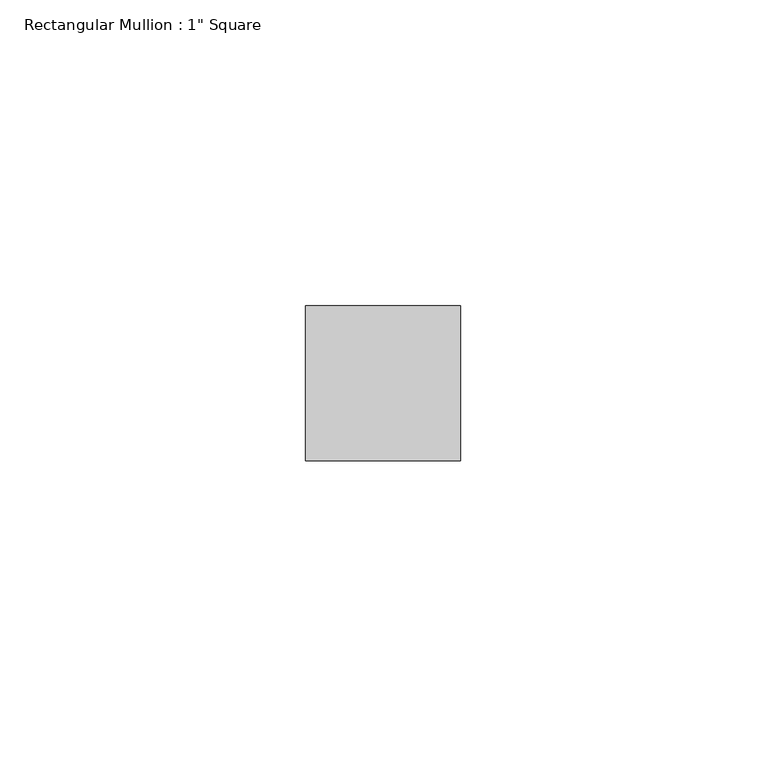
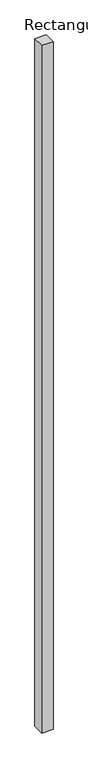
"""IFC4 building model written with IfcOpenShell, lengths in millimetres: member geometry."""

import ifcopenshell
import ifcopenshell.guid

model = None  # the IFC model being written
_history = None  # IfcOwnerHistory: only IFC2X3 demands one
_inside = {}  # id of a spatial element -> (the spatial element, [elements in it])
_under = {}  # id of a project, library or spatial element -> (it, [spatial elements below it])
_declared = {}  # id of a project -> (the project, [libraries it declares])
_typed = {}  # id of a type object -> (the type object, [elements of that type])
_made_of = {}  # id of a material, layer set ... -> (it, [elements and type objects made of it])


def new_model(schema):
    """Start an empty IFC model of exactly this schema.

    Asked for "IFC4X3", IfcOpenShell would pick the latest addendum, in which some entities
    have other attributes; the version numbers below select the first issue.
    IFC2X3 requires an IfcOwnerHistory on every rooted entity: one is made here for all.
    """
    global model, _history
    if schema == "IFC4X3":
        model = ifcopenshell.file(schema_version=(4, 3, 0, 0))
    else:
        model = ifcopenshell.file(schema=schema)
    _inside.clear()
    _under.clear()
    _declared.clear()
    _typed.clear()
    _made_of.clear()
    _history = None
    if model.schema == "IFC2X3":
        org = make("IfcOrganization", Name="unknown")
        user = make(
            "IfcPersonAndOrganization",
            ThePerson=make("IfcPerson", FamilyName="unknown"),
            TheOrganization=org,
        )
        app = make(
            "IfcApplication",
            ApplicationDeveloper=org,
            Version="unknown",
            ApplicationFullName="unknown",
            ApplicationIdentifier="unknown",
        )
        _history = make(
            "IfcOwnerHistory",
            OwningUser=user,
            OwningApplication=app,
            ChangeAction="ADDED",
            CreationDate=0,
        )
    return model


def make(cls, **values):
    """One entity of the class cls with the attributes given. An attribute that is None is left unset."""
    return model.create_entity(
        cls, **{name: value for name, value in values.items() if value is not None}
    )


def rooted(cls, **values):
    """An entity with a GlobalId (a new one), such as an element, a storey or a relation."""
    return make(cls, GlobalId=ifcopenshell.guid.new(), OwnerHistory=_history, **values)


def si_unit(unit_type, name, prefix=None):
    """IfcSIUnit, for example si_unit("LENGTHUNIT", "METRE", prefix="MILLI")."""
    return make("IfcSIUnit", UnitType=unit_type, Prefix=prefix, Name=name)


def assignment(units):
    """IfcUnitAssignment: the units of a project."""
    return None if units is None else make("IfcUnitAssignment", Units=units)


def point(xyz):
    """IfcCartesianPoint."""
    return None if xyz is None else make("IfcCartesianPoint", Coordinates=xyz)


def direction(xyz):
    """IfcDirection."""
    return None if xyz is None else make("IfcDirection", DirectionRatios=xyz)


def frame(location, z_axis=None, x_axis=None):
    """IfcAxis2Placement3D, a coordinate frame: its origin and axes. An axis left out is left unset."""
    return make(
        "IfcAxis2Placement3D",
        Location=point(location),
        Axis=direction(z_axis),
        RefDirection=direction(x_axis),
    )


def origin():
    """The frame at (0, 0, 0) with its axes left unset."""
    return frame((0.0, 0.0, 0.0))


def place(relative_to, where):
    """IfcLocalPlacement: puts the frame where relative to a parent placement (None: the world)."""
    return make(
        "IfcLocalPlacement", PlacementRelTo=relative_to, RelativePlacement=where
    )


def context(
    kind, dimensions, precision=None, world=None, true_north=None, identifier=None
):
    """IfcGeometricRepresentationContext, for example the 3D "Model" context."""
    return make(
        "IfcGeometricRepresentationContext",
        ContextIdentifier=identifier,
        ContextType=kind,
        CoordinateSpaceDimension=dimensions,
        Precision=precision,
        WorldCoordinateSystem=world,
        TrueNorth=true_north,
    )


def project(units=None, contexts=None):
    """IfcProject with its units and contexts."""
    return rooted(
        "IfcProject",
        Name="project",
        RepresentationContexts=contexts,
        UnitsInContext=assignment(units),
    )


def spatial(cls, under=None, at=None, **own):
    """A site, building, storey or space (cls), placed at a placement, below another one or the project."""
    s = rooted(cls, ObjectPlacement=at, **own)
    if under is not None:
        _under.setdefault(under.id(), (under, []))[1].append(s)
    return s


def polyline(points):
    """IfcPolyline through the points."""
    return make("IfcPolyline", Points=[point(p) for p in points])


def outline(outer, holes=None, kind="AREA"):
    """IfcArbitraryClosedProfileDef: a profile drawn as a closed curve; with holes, ...WithVoids."""
    if holes is None:
        return make("IfcArbitraryClosedProfileDef", ProfileType=kind, OuterCurve=outer)
    return make(
        "IfcArbitraryProfileDefWithVoids",
        ProfileType=kind,
        OuterCurve=outer,
        InnerCurves=holes,
    )


def extrude(swept, where, along, depth):
    """IfcExtrudedAreaSolid: the profile swept, set in the frame where, extruded along a direction by depth."""
    return make(
        "IfcExtrudedAreaSolid",
        SweptArea=swept,
        Position=where,
        ExtrudedDirection=direction(along),
        Depth=depth,
    )


def shape(context_of_items, identifier, shape_type, items):
    """IfcShapeRepresentation: the items that make up one representation, for example the "Body"."""
    return make(
        "IfcShapeRepresentation",
        ContextOfItems=context_of_items,
        RepresentationIdentifier=identifier,
        RepresentationType=shape_type,
        Items=items,
    )


def source(mapping_origin, context_of_items, identifier, shape_type, items):
    """IfcRepresentationMap: a shape defined once, which mapped items show again and again."""
    return make(
        "IfcRepresentationMap",
        MappingOrigin=mapping_origin,
        MappedRepresentation=shape(context_of_items, identifier, shape_type, items),
    )


def transform(
    local_origin,
    x_axis=None,
    y_axis=None,
    z_axis=None,
    scale=None,
    scale2=None,
    scale3=None,
    uniform=True,
):
    """IfcCartesianTransformationOperator3D, or its non-uniform kind. x_axis, y_axis, z_axis: its Axis1, 2, 3."""
    if uniform:
        return make(
            "IfcCartesianTransformationOperator3D",
            Axis1=direction(x_axis),
            Axis2=direction(y_axis),
            LocalOrigin=point(local_origin),
            Scale=scale,
            Axis3=direction(z_axis),
        )
    return make(
        "IfcCartesianTransformationOperator3DnonUniform",
        Axis1=direction(x_axis),
        Axis2=direction(y_axis),
        LocalOrigin=point(local_origin),
        Scale=scale,
        Axis3=direction(z_axis),
        Scale2=scale2,
        Scale3=scale3,
    )


def mapped(mapping_source, mapping_target):
    """IfcMappedItem: shows the shape of a source again, moved by a transform."""
    return make(
        "IfcMappedItem", MappingSource=mapping_source, MappingTarget=mapping_target
    )


def made_of(thing, what):
    """Note that an element or type object is made of a material, layer set ...; save() writes the relation."""
    if what is not None:
        _made_of.setdefault(what.id(), (what, []))[1].append(thing)
    return thing


def element(
    cls,
    number,
    at=None,
    inside=None,
    cuts=None,
    type_object=None,
    material=None,
    context=None,
    identifier="Body",
    shape_type=None,
    held_by="IfcProductDefinitionShape",
    body=None,
    shapes=None,
    **own,
):
    """One element of the class cls, such as IfcWall. Its Tag is "e" and its number.

    at: its placement. inside: the storey or other place that contains it. cuts: it is an
    opening in that element (IfcRelVoidsElement). A single representation is given by context,
    identifier, shape_type and body (its items); several are given by shapes. held_by: the class
    of the entity that holds the representations. save() writes the other relations.
    """
    e = rooted(cls, Tag="e%d" % number, ObjectPlacement=at, **own)
    if body is not None:
        shapes = [shape(context, identifier, shape_type, body)]
    if shapes is not None:
        e.Representation = make(held_by, Representations=shapes)
    if inside is not None:
        _inside.setdefault(inside.id(), (inside, []))[1].append(e)
    if cuts is not None:
        rooted(
            "IfcRelVoidsElement", RelatingBuildingElement=cuts, RelatedOpeningElement=e
        )
    if type_object is not None:
        _typed.setdefault(type_object.id(), (type_object, []))[1].append(e)
    return made_of(e, material)


def aggregate(whole, parts):
    """IfcRelAggregates: a whole, such as a stair, and the parts it consists of."""
    return rooted("IfcRelAggregates", RelatingObject=whole, RelatedObjects=parts)


def save(model, path):
    """Write the relations noted so far, then the file.

    IfcRelAggregates (storeys below a building ...), IfcRelContainedInSpatialStructure (elements
    in a storey), IfcRelDefinesByType, IfcRelAssociatesMaterial and IfcRelDeclares: one each for
    every whole, place, type object, material and project.
    """
    for whole, parts in _under.values():
        aggregate(whole, parts)
    for where, things in _inside.values():
        rooted(
            "IfcRelContainedInSpatialStructure",
            RelatedElements=things,
            RelatingStructure=where,
        )
    for kind, things in _typed.values():
        rooted("IfcRelDefinesByType", RelatedObjects=things, RelatingType=kind)
    for what, things in _made_of.values():
        rooted("IfcRelAssociatesMaterial", RelatedObjects=things, RelatingMaterial=what)
    for by, libraries in _declared.values():
        rooted("IfcRelDeclares", RelatingContext=by, RelatedDefinitions=libraries)
    model.write(path)


def member_01d9c279(model_context):
    return source(origin(), model_context, "Body", "SweptSolid", [
        extrude(outline(polyline([(12.7, 12.7), (12.7, -12.7), (-12.7, -12.7), (-12.7, 12.7), (12.7, 12.7)])), frame((0.0, 0.0, -1603.4775636), z_axis=(0.0, 0.0, 1.0), x_axis=(1.0, 0.0, 0.0)), (0.0, 0.0, 1.0), 1603.4775636),
    ])


if __name__ == "__main__":
    model = new_model("IFC4")
    model_context = context("Model", 3, world=origin())
    ifc_project = project(units=[si_unit("LENGTHUNIT", "METRE", prefix="MILLI")], contexts=[model_context])
    site = spatial("IfcSite", under=ifc_project)
    building = spatial("IfcBuilding", under=site)
    placement = place(None, origin())
    member_shape = member_01d9c279(model_context)
    element("IfcMember", 1, ObjectType="Rectangular Mullion : 1\" Square", at=placement, inside=building, context=model_context, shape_type="MappedRepresentation", body=[
        mapped(member_shape, transform((0.0, 0.0, 0.0), x_axis=(1.0, 0.0, 0.0), y_axis=(0.0, 1.0, 0.0), z_axis=(0.0, 0.0, 1.0))),
    ])
    save(model, "model.ifc")
